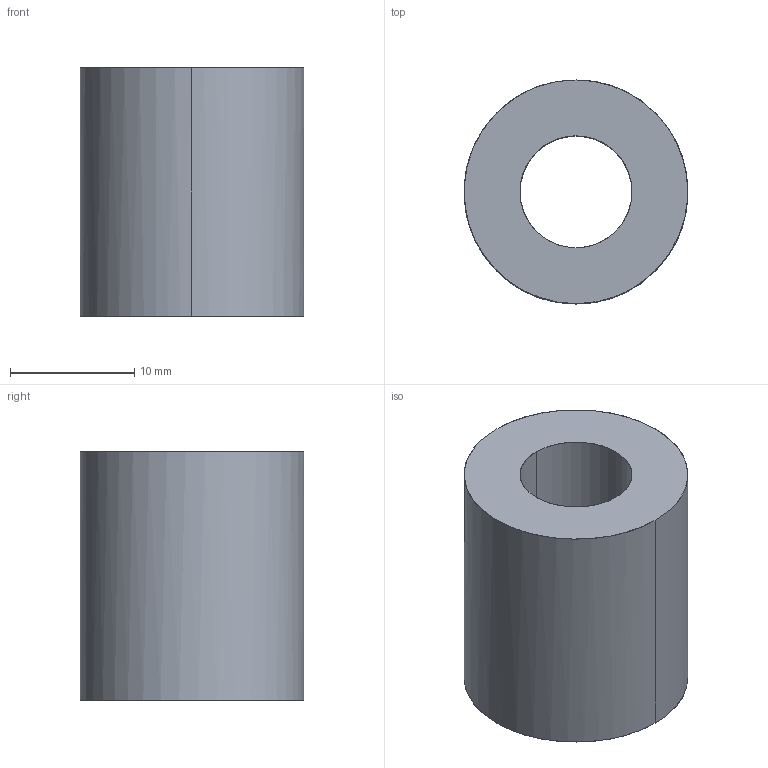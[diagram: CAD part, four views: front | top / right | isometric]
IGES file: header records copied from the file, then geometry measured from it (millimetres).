
Global section: file name: E:\UnigraphicsGraphicData\MISUMI_PRESS-PARTS\IGES\3d_swl18-20_00726_r00.igs; native system: NX V5.0; preprocessor: UGS NX IGES V5.0; author: MISUMI; date: 20110105.163258; units: millimetre
Bounding box: 18 x 18 x 20 mm (x, y, z)
Surface area: 2079.4 mm2 (no closed solid volume)
Topology: 0 solids, 0 shells, 6 faces, 48 edges, 48 vertices
Faces by surface type: bspline 6
